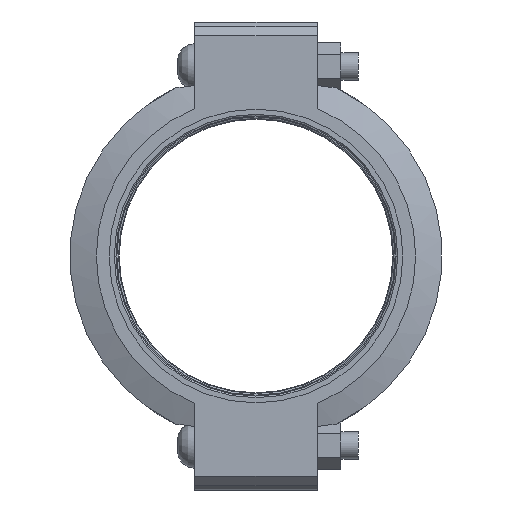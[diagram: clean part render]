
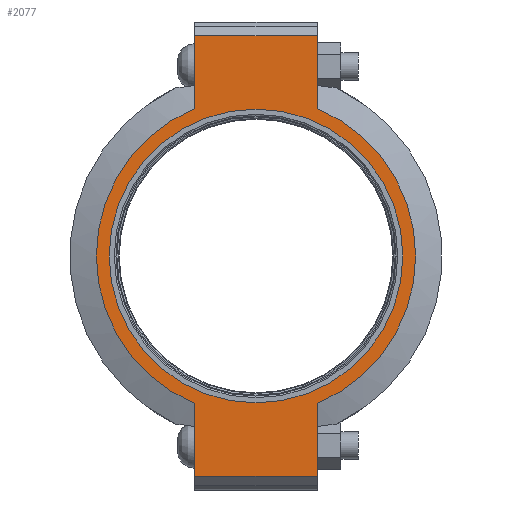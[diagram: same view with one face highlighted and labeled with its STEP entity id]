
A CAD part, left-side view. The second image highlights one B-rep face of the part: STEP entity #2077.
In plain terms, the highlighted planar face has unit normal (-1, 0, 0) as drawn and (0, 0, 1) by its records, which use the part's own axes.
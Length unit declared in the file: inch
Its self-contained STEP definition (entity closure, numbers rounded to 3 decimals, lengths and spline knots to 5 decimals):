
#186=LINE('',#3654,#279);
#197=LINE('',#3705,#290);
#203=LINE('',#3731,#296);
#205=LINE('',#3734,#298);
#206=LINE('',#3739,#299);
#207=LINE('',#3740,#300);
#279=VECTOR('',#2973,0.3937);
#290=VECTOR('',#3004,0.3937);
#296=VECTOR('',#3022,0.3937);
#298=VECTOR('',#3026,0.3937);
#299=VECTOR('',#3031,0.3937);
#300=VECTOR('',#3032,0.3937);
#363=FACE_BOUND('',#616,.T.);
#406=PLANE('',#2423);
#493=FACE_OUTER_BOUND('',#615,.T.);
#615=EDGE_LOOP('',(#1750,#1751,#1752,#1753,#1754,#1755,#1756,#1757));
#616=EDGE_LOOP('',(#1758));
#800=CIRCLE('',#2424,5.845);
#801=CIRCLE('',#2425,5.845);
#802=CIRCLE('',#2426,5.375);
#972=VERTEX_POINT('',#3651);
#973=VERTEX_POINT('',#3653);
#990=VERTEX_POINT('',#3700);
#991=VERTEX_POINT('',#3704);
#998=VERTEX_POINT('',#3726);
#999=VERTEX_POINT('',#3730);
#1000=VERTEX_POINT('',#3736);
#1001=VERTEX_POINT('',#3738);
#1002=VERTEX_POINT('',#3742);
#1227=EDGE_CURVE('',#973,#972,#186,.T.);
#1248=EDGE_CURVE('',#991,#990,#197,.T.);
#1259=EDGE_CURVE('',#999,#998,#203,.T.);
#1261=EDGE_CURVE('',#999,#972,#205,.T.);
#1262=EDGE_CURVE('',#998,#1000,#800,.T.);
#1263=EDGE_CURVE('',#1000,#1001,#206,.T.);
#1264=EDGE_CURVE('',#991,#1001,#207,.T.);
#1265=EDGE_CURVE('',#990,#973,#801,.T.);
#1266=EDGE_CURVE('',#1002,#1002,#802,.T.);
#1750=ORIENTED_EDGE('',*,*,#1261,.F.);
#1751=ORIENTED_EDGE('',*,*,#1259,.T.);
#1752=ORIENTED_EDGE('',*,*,#1262,.T.);
#1753=ORIENTED_EDGE('',*,*,#1263,.T.);
#1754=ORIENTED_EDGE('',*,*,#1264,.F.);
#1755=ORIENTED_EDGE('',*,*,#1248,.T.);
#1756=ORIENTED_EDGE('',*,*,#1265,.T.);
#1757=ORIENTED_EDGE('',*,*,#1227,.T.);
#1758=ORIENTED_EDGE('',*,*,#1266,.T.);
#2077=ADVANCED_FACE('',(#493,#363),#406,.T.);
#2423=AXIS2_PLACEMENT_3D('',#3735,#3027,#3028);
#2424=AXIS2_PLACEMENT_3D('',#3737,#3029,#3030);
#2425=AXIS2_PLACEMENT_3D('',#3741,#3033,#3034);
#2426=AXIS2_PLACEMENT_3D('',#3743,#3035,#3036);
#2973=DIRECTION('',(1.,0.,0.));
#3004=DIRECTION('',(1.,0.,0.));
#3022=DIRECTION('',(-1.,0.,0.));
#3026=DIRECTION('',(0.,-1.,0.));
#3027=DIRECTION('center_axis',(0.,0.,1.));
#3028=DIRECTION('ref_axis',(-1.,0.,0.));
#3029=DIRECTION('center_axis',(0.,0.,1.));
#3030=DIRECTION('ref_axis',(1.,0.,0.));
#3031=DIRECTION('',(-1.,0.,0.));
#3032=DIRECTION('',(0.,1.,0.));
#3033=DIRECTION('center_axis',(0.,0.,1.));
#3034=DIRECTION('ref_axis',(1.,0.,0.));
#3035=DIRECTION('center_axis',(0.,0.,-1.));
#3036=DIRECTION('ref_axis',(1.,0.,0.));
#3651=CARTESIAN_POINT('',(8.065,-2.25,1.315));
#3653=CARTESIAN_POINT('',(5.39458,-2.25,1.315));
#3654=CARTESIAN_POINT('',(-8.565,-2.25,1.315));
#3700=CARTESIAN_POINT('',(-5.39458,-2.25,1.315));
#3704=CARTESIAN_POINT('',(-8.065,-2.25,1.315));
#3705=CARTESIAN_POINT('',(-8.565,-2.25,1.315));
#3726=CARTESIAN_POINT('',(5.39458,2.25,1.315));
#3730=CARTESIAN_POINT('',(8.065,2.25,1.315));
#3731=CARTESIAN_POINT('',(8.565,2.25,1.315));
#3734=CARTESIAN_POINT('',(8.065,-1.125,1.315));
#3735=CARTESIAN_POINT('Origin',(0.,0.,
1.315));
#3736=CARTESIAN_POINT('',(-5.39458,2.25,1.315));
#3737=CARTESIAN_POINT('Origin',(0.,0.,1.315));
#3738=CARTESIAN_POINT('',(-8.065,2.25,1.315));
#3739=CARTESIAN_POINT('',(8.565,2.25,1.315));
#3740=CARTESIAN_POINT('',(-8.065,1.125,1.315));
#3741=CARTESIAN_POINT('Origin',(0.,0.,1.315));
#3742=CARTESIAN_POINT('',(-5.375,0.,1.315));
#3743=CARTESIAN_POINT('Origin',(0.,0.,1.315));
